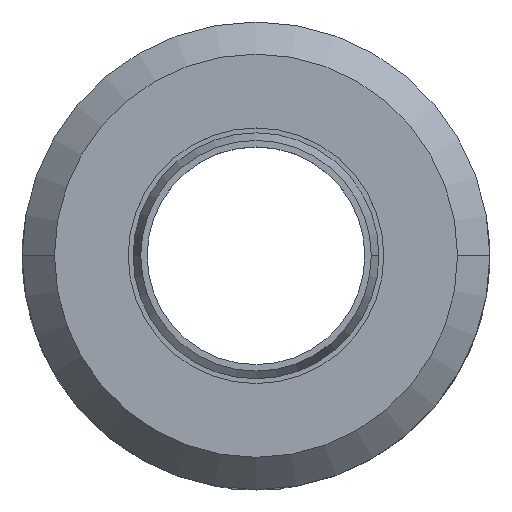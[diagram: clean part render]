
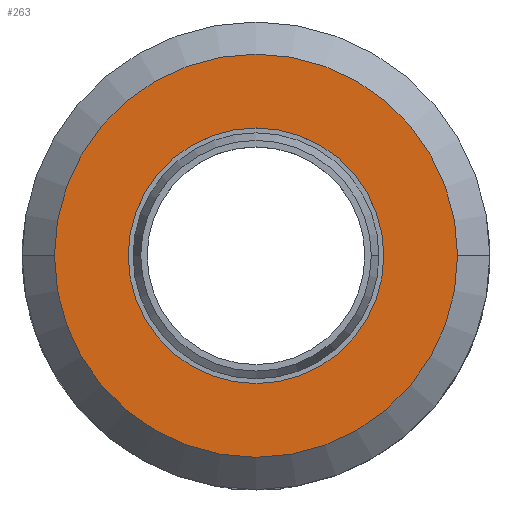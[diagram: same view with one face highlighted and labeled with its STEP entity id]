
A CAD part, top view. The second image highlights one B-rep face of the part: STEP entity #263.
In plain terms, the highlighted planar face has unit normal (0, 0, 1).
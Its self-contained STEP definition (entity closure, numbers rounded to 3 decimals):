
#146 = VERTEX_POINT ( 'NONE', #1166 ) ;
#207 = EDGE_CURVE ( 'NONE', #247, #245, #989, .T. ) ;
#213 = VERTEX_POINT ( 'NONE', #979 ) ;
#245 = VERTEX_POINT ( 'NONE', #1375 ) ;
#247 = VERTEX_POINT ( 'NONE', #1374 ) ;
#249 = EDGE_CURVE ( 'NONE', #146, #213, #1437, .T. ) ;
#263 = ADVANCED_FACE ( 'NONE', ( #1364, #1363 ), #1337, .F. ) ;
#280 = ORIENTED_EDGE ( 'NONE', *, *, #296, .T. ) ;
#285 = ORIENTED_EDGE ( 'NONE', *, *, #318, .F. ) ;
#296 = EDGE_CURVE ( 'NONE', #245, #247, #1233, .T. ) ;
#300 = ORIENTED_EDGE ( 'NONE', *, *, #249, .F. ) ;
#301 = EDGE_LOOP ( 'NONE', ( #285, #300 ) ) ;
#312 = ORIENTED_EDGE ( 'NONE', *, *, #207, .T. ) ;
#318 = EDGE_CURVE ( 'NONE', #213, #146, #1400, .T. ) ;
#331 = EDGE_LOOP ( 'NONE', ( #280, #312 ) ) ;
#979 = CARTESIAN_POINT ( 'NONE',  ( 15.85, 0., 0. ) ) ;
#985 = DIRECTION ( 'NONE',  ( 1., 0., 0. ) ) ;
#986 = DIRECTION ( 'NONE',  ( 0., 0., 1. ) ) ;
#987 = CARTESIAN_POINT ( 'NONE',  ( 0., 0., 0. ) ) ;
#988 = AXIS2_PLACEMENT_3D ( 'NONE', #987, #986, #985 ) ;
#989 = CIRCLE ( 'NONE', #988, 25. ) ;
#1166 = CARTESIAN_POINT ( 'NONE',  ( -15.85, 0., 0. ) ) ;
#1231 = CARTESIAN_POINT ( 'NONE',  ( 0., 0., 0. ) ) ;
#1232 = AXIS2_PLACEMENT_3D ( 'NONE', #1231, #1314, #1313 ) ;
#1233 = CIRCLE ( 'NONE', #1232, 25. ) ;
#1279 = DIRECTION ( 'NONE',  ( -1., 0., 0. ) ) ;
#1283 = DIRECTION ( 'NONE',  ( 1., 0., 0. ) ) ;
#1284 = DIRECTION ( 'NONE',  ( 0., 0., 1. ) ) ;
#1285 = CARTESIAN_POINT ( 'NONE',  ( 0., 0., 0. ) ) ;
#1286 = AXIS2_PLACEMENT_3D ( 'NONE', #1285, #1284, #1283 ) ;
#1313 = DIRECTION ( 'NONE',  ( 1., 0., 0. ) ) ;
#1314 = DIRECTION ( 'NONE',  ( 0., 0., 1. ) ) ;
#1337 = PLANE ( 'NONE',  #1362 ) ;
#1360 = DIRECTION ( 'NONE',  ( 0., 0., -1. ) ) ;
#1361 = CARTESIAN_POINT ( 'NONE',  ( 0., 15.85, 0. ) ) ;
#1362 = AXIS2_PLACEMENT_3D ( 'NONE', #1361, #1360, #1279 ) ;
#1363 = FACE_OUTER_BOUND ( 'NONE', #331, .T. ) ;
#1364 = FACE_BOUND ( 'NONE', #301, .T. ) ;
#1374 = CARTESIAN_POINT ( 'NONE',  ( 25., 0., 0. ) ) ;
#1375 = CARTESIAN_POINT ( 'NONE',  ( -25., 0., 0. ) ) ;
#1396 = DIRECTION ( 'NONE',  ( 1., 0., 0. ) ) ;
#1397 = DIRECTION ( 'NONE',  ( 0., 0., 1. ) ) ;
#1398 = CARTESIAN_POINT ( 'NONE',  ( 0., 0., 0. ) ) ;
#1399 = AXIS2_PLACEMENT_3D ( 'NONE', #1398, #1397, #1396 ) ;
#1400 = CIRCLE ( 'NONE', #1399, 15.85 ) ;
#1437 = CIRCLE ( 'NONE', #1286, 15.85 ) ;
